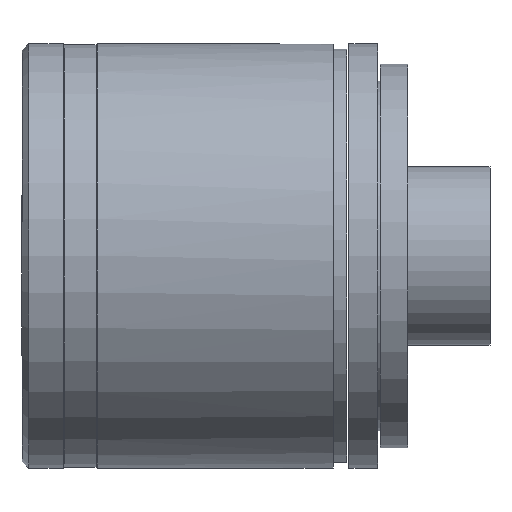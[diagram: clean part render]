
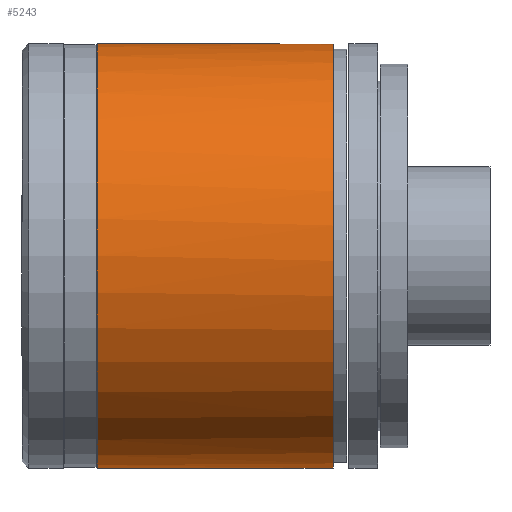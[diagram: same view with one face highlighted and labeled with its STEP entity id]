
A CAD part, top view. The second image highlights one B-rep face of the part: STEP entity #5243.
In plain terms, the highlighted cylindrical face has radius 15.5 mm (diameter 31 mm), a full revolution.
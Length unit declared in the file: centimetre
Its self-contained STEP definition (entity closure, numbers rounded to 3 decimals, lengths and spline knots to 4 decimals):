
#88=B_SPLINE_CURVE_WITH_KNOTS($,3,(#8215,#8216,#8217,#8218,#8219,#8220,
#8221,#8222,#8223,#8224),.UNSPECIFIED.,.F.,.F.,(4,2,2,2,4),(0.,0.0849,
0.1698,0.2547,0.3395),.UNSPECIFIED.);
#89=B_SPLINE_CURVE_WITH_KNOTS($,3,(#8225,#8226,#8227,#8228,#8229,#8230,
#8231,#8232,#8233,#8234),.UNSPECIFIED.,.F.,.F.,(4,2,2,2,4),(-0.3395,
-0.2547,-0.1698,-0.0849,0.),
 .UNSPECIFIED.);
#323=LINE($,#8148,#635);
#332=LINE($,#8192,#644);
#635=VECTOR($,#6736,1.195);
#644=VECTOR($,#6763,1.195);
#970=FACE_BOUND($,#1470,.T.);
#1131=FACE_OUTER_BOUND($,#1469,.T.);
#1469=EDGE_LOOP($,(#3905));
#1470=EDGE_LOOP($,(#3906,#3907,#3908,#3909,#3910));
#1812=CIRCLE($,#5562,1.55);
#1869=CIRCLE($,#5724,1.55);
#2157=VERTEX_POINT($,#7816);
#2224=VERTEX_POINT($,#8145);
#2225=VERTEX_POINT($,#8147);
#2238=VERTEX_POINT($,#8189);
#2239=VERTEX_POINT($,#8191);
#2241=VERTEX_POINT($,#8214);
#2659=EDGE_CURVE($,#2157,#2157,#1812,.T.);
#2823=EDGE_CURVE($,#2225,#2224,#323,.T.);
#2840=EDGE_CURVE($,#2239,#2238,#332,.T.);
#2846=EDGE_CURVE($,#2239,#2241,#88,.T.);
#2847=EDGE_CURVE($,#2241,#2224,#89,.T.);
#2852=EDGE_CURVE($,#2225,#2238,#1869,.T.);
#3905=ORIENTED_EDGE($,*,*,#2659,.T.);
#3906=ORIENTED_EDGE($,*,*,#2823,.T.);
#3907=ORIENTED_EDGE($,*,*,#2847,.F.);
#3908=ORIENTED_EDGE($,*,*,#2846,.F.);
#3909=ORIENTED_EDGE($,*,*,#2840,.T.);
#3910=ORIENTED_EDGE($,*,*,#2852,.F.);
#4790=CYLINDRICAL_SURFACE($,#5723,1.55);
#5243=ADVANCED_FACE($,(#1131,#970),#4790,.T.);
#5562=AXIS2_PLACEMENT_3D($,#7817,#6325,#6326);
#5723=AXIS2_PLACEMENT_3D($,#8244,#6777,#6778);
#5724=AXIS2_PLACEMENT_3D($,#8245,#6779,#6780);
#6325=DIRECTION('center_axis',(1.,0.,0.));
#6326=DIRECTION('ref_axis',(0.,-0.5,0.866));
#6736=DIRECTION($,(-1.,0.,0.));
#6763=DIRECTION($,(1.,0.,0.));
#6777=DIRECTION('center_axis',(1.,0.,0.));
#6778=DIRECTION('ref_axis',(0.,-0.5,0.866));
#6779=DIRECTION('center_axis',(1.,0.,0.));
#6780=DIRECTION('ref_axis',(0.,-0.5,0.866));
#7816=CARTESIAN_POINT('',(0.55,-0.1209,1.3423));
#7817=CARTESIAN_POINT('Origin',(0.55,0.6541,0.));
#8145=CARTESIAN_POINT('',(1.075,1.6157,-1.2156));
#8147=CARTESIAN_POINT('',(2.27,1.6157,-1.2156));
#8148=CARTESIAN_POINT($,(1.41,1.6157,-1.2156));
#8189=CARTESIAN_POINT('',(2.27,1.226,-1.4406));
#8191=CARTESIAN_POINT('',(1.075,1.226,-1.4406));
#8192=CARTESIAN_POINT($,(1.41,1.226,-1.4406));
#8214=CARTESIAN_POINT('',(0.85,1.4291,-1.3423));
#8215=CARTESIAN_POINT('Ctrl Pts',(1.075,1.226,-1.4406));
#8216=CARTESIAN_POINT('Ctrl Pts',(1.0467,1.226,-1.4406));
#8217=CARTESIAN_POINT('Ctrl Pts',(1.0166,1.2313,-1.4385));
#8218=CARTESIAN_POINT('Ctrl Pts',(0.9611,1.2528,-1.4297));
#8219=CARTESIAN_POINT('Ctrl Pts',(0.9359,1.2689,-1.423));
#8220=CARTESIAN_POINT('Ctrl Pts',(0.8959,1.3055,-1.4066));
#8221=CARTESIAN_POINT('Ctrl Pts',(0.8786,1.3285,-1.3959));
#8222=CARTESIAN_POINT('Ctrl Pts',(0.8557,1.378,-1.3708));
#8223=CARTESIAN_POINT('Ctrl Pts',(0.85,1.4046,-1.3565));
#8224=CARTESIAN_POINT('Ctrl Pts',(0.85,1.4291,-1.3423));
#8225=CARTESIAN_POINT('Ctrl Pts',(0.85,1.4291,-1.3423));
#8226=CARTESIAN_POINT('Ctrl Pts',(0.85,1.4536,-1.3282));
#8227=CARTESIAN_POINT('Ctrl Pts',(0.8557,1.4793,-1.3124));
#8228=CARTESIAN_POINT('Ctrl Pts',(0.8786,1.5257,-1.282));
#8229=CARTESIAN_POINT('Ctrl Pts',(0.8959,1.5465,-1.2675));
#8230=CARTESIAN_POINT('Ctrl Pts',(0.9359,1.579,-1.2439));
#8231=CARTESIAN_POINT('Ctrl Pts',(0.9611,1.5929,-1.2334));
#8232=CARTESIAN_POINT('Ctrl Pts',(1.0166,1.6112,-1.2192));
#8233=CARTESIAN_POINT('Ctrl Pts',(1.0467,1.6157,-1.2156));
#8234=CARTESIAN_POINT('Ctrl Pts',(1.075,1.6157,-1.2156));
#8244=CARTESIAN_POINT('Origin',(1.41,0.6541,0.));
#8245=CARTESIAN_POINT('Origin',(2.27,0.6541,0.));
